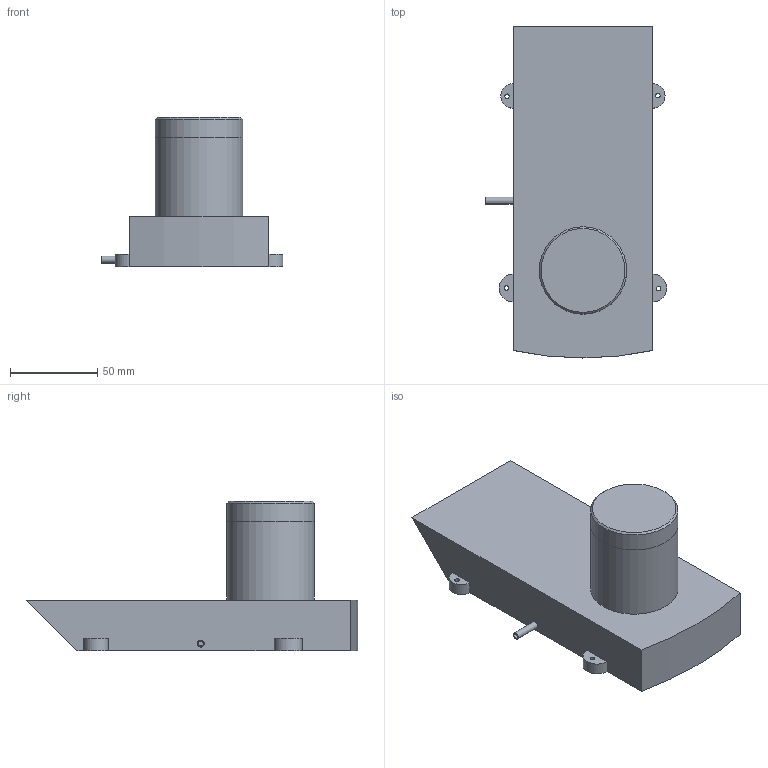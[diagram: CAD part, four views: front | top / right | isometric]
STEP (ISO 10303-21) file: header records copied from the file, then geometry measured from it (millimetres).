
FILE_DESCRIPTION(/* description */ (''),/* implementation_level */ '2;1');
FILE_NAME(/* name */ 'fnl_tank.step',/* time_stamp */ '2026-07-16T21:55:19+05:30',/* author */ (''),/* organization */ (''),/* preprocessor_version */ 'ST-DEVELOPER v20.1',/* originating_system */ 'Autodesk Translation Framework v15.8.0.0',/* authorisation */ '');
FILE_SCHEMA (('AUTOMOTIVE_DESIGN { 1 0 10303 214 3 1 1 }'));
Length unit declared in the file: millimetre
Products named in the file (1): 2026-07-04-17-56-41-798
Bounding box: 104 x 190 x 85.5 mm (x, y, z)
Volume: 147481.2 mm3; surface area: 102742.7 mm2
Topology: 2 solids, 2 shells, 58 faces, 134 edges, 84 vertices
Faces by surface type: plane 22, cylinder 21, bspline 10, cone 5
Full cylindrical faces by diameter (mm): 2.529 x4, 3 x1, 4 x1, 39 x1, 44 x1, 45 x2, 47 x1, 50 x2
Entity records: 2381 total; most frequent: CARTESIAN_POINT 1046, ORIENTED_EDGE 264, DIRECTION 258, EDGE_CURVE 132, AXIS2_PLACEMENT_3D 97, VERTEX_POINT 84, EDGE_LOOP 74, LINE 64
